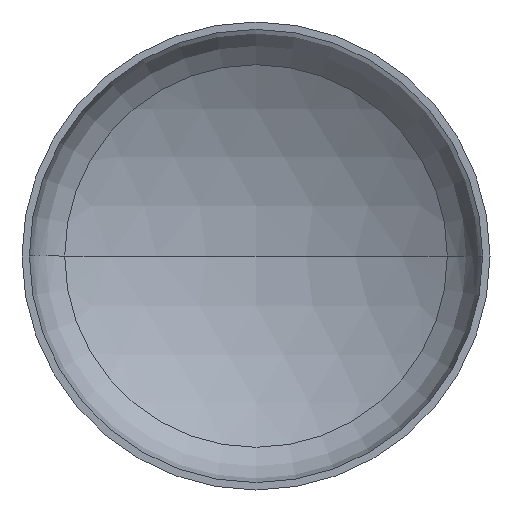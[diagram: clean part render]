
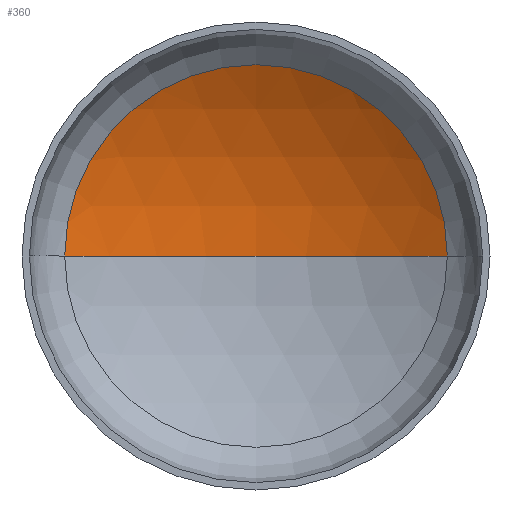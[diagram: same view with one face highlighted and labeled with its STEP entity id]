
A CAD part, front view. The second image highlights one B-rep face of the part: STEP entity #360.
In plain terms, the highlighted spherical face has radius 1920 mm.
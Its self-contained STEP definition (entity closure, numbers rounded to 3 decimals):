
#10 = EDGE_LOOP ( 'NONE', ( #132, #73, #297 ) ) ;
#11 = AXIS2_PLACEMENT_3D ( 'NONE', #134, #69, #111 ) ;
#15 = AXIS2_PLACEMENT_3D ( 'NONE', #141, #392, #387 ) ;
#27 = VERTEX_POINT ( 'NONE', #272 ) ;
#58 = VERTEX_POINT ( 'NONE', #245 ) ;
#66 = CIRCLE ( 'NONE', #92, 981.058 ) ;
#69 = DIRECTION ( 'NONE',  ( 0., 0., -1. ) ) ;
#73 = ORIENTED_EDGE ( 'NONE', *, *, #368, .T. ) ;
#92 = AXIS2_PLACEMENT_3D ( 'NONE', #239, #235, #234 ) ;
#106 = VERTEX_POINT ( 'NONE', #279 ) ;
#111 = DIRECTION ( 'NONE',  ( -1., 0., 0. ) ) ;
#122 = CARTESIAN_POINT ( 'NONE',  ( 0., -1212.38, 0. ) ) ;
#124 = DIRECTION ( 'NONE',  ( 0., 0., 1. ) ) ;
#132 = ORIENTED_EDGE ( 'NONE', *, *, #369, .F. ) ;
#134 = CARTESIAN_POINT ( 'NONE',  ( 0., -1212.38, 0. ) ) ;
#139 = CIRCLE ( 'NONE', #393, 1920. ) ;
#141 = CARTESIAN_POINT ( 'NONE',  ( 0., -1212.38, 0. ) ) ;
#152 = SPHERICAL_SURFACE ( 'NONE', #15, 1920. ) ;
#203 = EDGE_CURVE ( 'NONE', #27, #58, #66, .T. ) ;
#234 = DIRECTION ( 'NONE',  ( 1., 0., 0. ) ) ;
#235 = DIRECTION ( 'NONE',  ( 0., -1., 0. ) ) ;
#239 = CARTESIAN_POINT ( 'NONE',  ( 0., 438.052, 0. ) ) ;
#245 = CARTESIAN_POINT ( 'NONE',  ( -981.058, 438.052, 0. ) ) ;
#272 = CARTESIAN_POINT ( 'NONE',  ( 981.058, 438.052, 0. ) ) ;
#279 = CARTESIAN_POINT ( 'NONE',  ( 0., 707.62, 0. ) ) ;
#289 = CIRCLE ( 'NONE', #11, 1920. ) ;
#296 = FACE_OUTER_BOUND ( 'NONE', #10, .T. ) ;
#297 = ORIENTED_EDGE ( 'NONE', *, *, #203, .T. ) ;
#360 = ADVANCED_FACE ( 'NONE', ( #296 ), #152, .F. ) ;
#368 = EDGE_CURVE ( 'NONE', #106, #27, #289, .T. ) ;
#369 = EDGE_CURVE ( 'NONE', #106, #58, #139, .T. ) ;
#372 = DIRECTION ( 'NONE',  ( 1., 0., 0. ) ) ;
#387 = DIRECTION ( 'NONE',  ( -1., 0., 0. ) ) ;
#392 = DIRECTION ( 'NONE',  ( 0., 0., -1. ) ) ;
#393 = AXIS2_PLACEMENT_3D ( 'NONE', #122, #124, #372 ) ;
